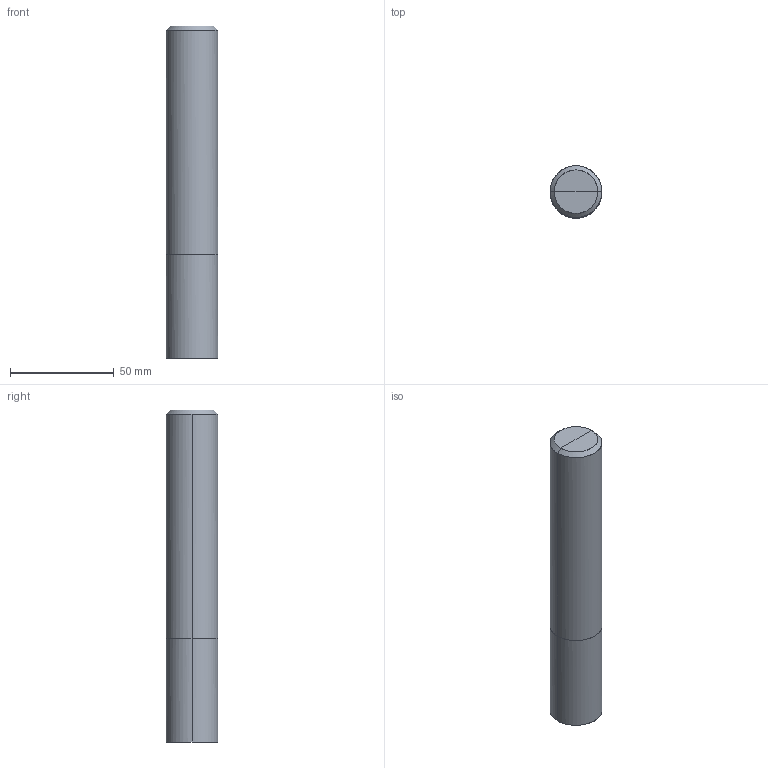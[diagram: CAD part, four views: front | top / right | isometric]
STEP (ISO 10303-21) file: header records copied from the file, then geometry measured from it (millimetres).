
FILE_DESCRIPTION(/* description */ (''),/* implementation_level */ '2;1');
FILE_NAME(/*name*/ '4081-25.0D',/*time_stamp*/'2021-4-29T8:24:54',/*author*/ ('ISBE GmbH'),/*organization*/ ('ISBE GmbH'),/*preprocessor_version*/ 'STEP IO v1.0',/*originating_system*/ '',/*authorisation*/ '');
FILE_SCHEMA (('AUTOMOTIVE_DESIGN'));
Length unit declared in the file: millimetre
Products named in the file (1): Document
Bounding box: 25 x 25 x 160 mm (x, y, z)
Surface area: 14453 mm2 (no closed solid volume)
Topology: 0 solids, 14 shells, 14 faces, 60 edges, 56 vertices
Faces by surface type: bspline 14
Entity records: 2515 total; most frequent: CARTESIAN_POINT 2242, VERTEX_POINT 48, EDGE_CURVE 48, ORIENTED_EDGE 48, DIRECTION 16, EDGE_LOOP 14, FACE_OUTER_BOUND 14, ADVANCED_FACE 14
